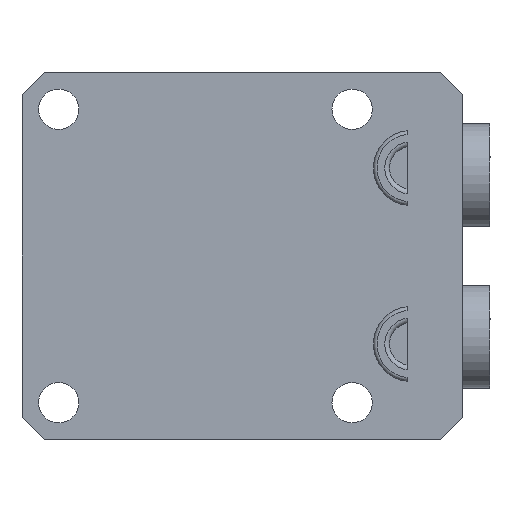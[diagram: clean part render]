
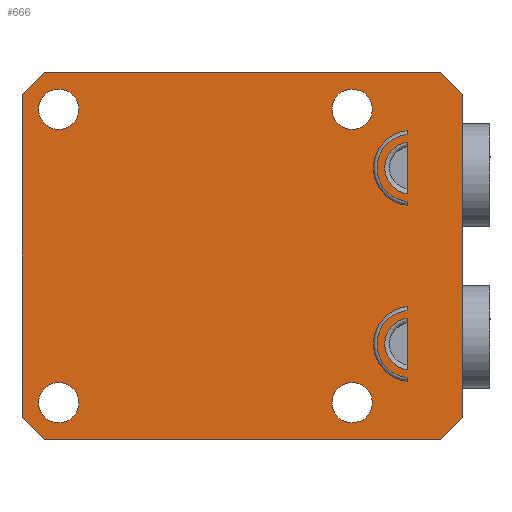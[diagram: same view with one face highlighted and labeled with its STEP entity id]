
A CAD part, front view. The second image highlights one B-rep face of the part: STEP entity #666.
In plain terms, the highlighted planar face has unit normal (0, -1, 0).
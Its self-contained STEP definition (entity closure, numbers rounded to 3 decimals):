
#180=FACE_BOUND('',#962,.T.);
#181=FACE_BOUND('',#963,.T.);
#182=FACE_BOUND('',#964,.T.);
#183=FACE_BOUND('',#965,.T.);
#184=FACE_BOUND('',#966,.T.);
#185=FACE_BOUND('',#967,.T.);
#186=FACE_BOUND('',#968,.T.);
#187=FACE_BOUND('',#969,.T.);
#188=FACE_BOUND('',#970,.T.);
#220=PLANE('',#2629);
#337=LINE('',#3888,#497);
#353=LINE('',#4008,#513);
#354=LINE('',#4009,#514);
#355=LINE('',#4010,#515);
#356=LINE('',#4011,#516);
#357=LINE('',#4012,#517);
#358=LINE('',#4014,#518);
#359=LINE('',#4016,#519);
#360=LINE('',#4018,#520);
#361=LINE('',#4020,#521);
#362=LINE('',#4022,#522);
#363=LINE('',#4024,#523);
#364=LINE('',#4029,#524);
#365=LINE('',#4030,#525);
#497=VECTOR('',#2926,1.);
#513=VECTOR('',#2982,1.);
#514=VECTOR('',#2983,1.);
#515=VECTOR('',#2984,1.);
#516=VECTOR('',#2985,1.);
#517=VECTOR('',#2986,1.);
#518=VECTOR('',#2987,1.);
#519=VECTOR('',#2988,1.);
#520=VECTOR('',#2989,1.);
#521=VECTOR('',#2990,1.);
#522=VECTOR('',#2991,1.);
#523=VECTOR('',#2992,1.);
#524=VECTOR('',#3001,1.);
#525=VECTOR('',#3002,1.);
#666=ADVANCED_FACE('',(#180,#181,#182,#183,#184,#185,#186,#187,#188),#220,
 .F.);
#962=EDGE_LOOP('',(#1265,#1266,#1267,#1268));
#963=EDGE_LOOP('',(#1269,#1270,#1271,#1272));
#964=EDGE_LOOP('',(#1273,#1274,#1275,#1276,#1277,#1278,#1279,#1280));
#965=EDGE_LOOP('',(#1281,#1282));
#966=EDGE_LOOP('',(#1283,#1284));
#967=EDGE_LOOP('',(#1285,#1286));
#968=EDGE_LOOP('',(#1287,#1288));
#969=EDGE_LOOP('',(#1289,#1290));
#970=EDGE_LOOP('',(#1291,#1292));
#1265=ORIENTED_EDGE('',*,*,#2121,.F.);
#1266=ORIENTED_EDGE('',*,*,#2179,.T.);
#1267=ORIENTED_EDGE('',*,*,#2130,.F.);
#1268=ORIENTED_EDGE('',*,*,#2180,.T.);
#1269=ORIENTED_EDGE('',*,*,#2181,.T.);
#1270=ORIENTED_EDGE('',*,*,#2114,.T.);
#1271=ORIENTED_EDGE('',*,*,#2182,.T.);
#1272=ORIENTED_EDGE('',*,*,#2101,.T.);
#1273=ORIENTED_EDGE('',*,*,#2141,.F.);
#1274=ORIENTED_EDGE('',*,*,#2183,.T.);
#1275=ORIENTED_EDGE('',*,*,#2184,.F.);
#1276=ORIENTED_EDGE('',*,*,#2185,.T.);
#1277=ORIENTED_EDGE('',*,*,#2186,.F.);
#1278=ORIENTED_EDGE('',*,*,#2187,.T.);
#1279=ORIENTED_EDGE('',*,*,#2188,.F.);
#1280=ORIENTED_EDGE('',*,*,#2189,.T.);
#1281=ORIENTED_EDGE('',*,*,#2151,.F.);
#1282=ORIENTED_EDGE('',*,*,#2190,.F.);
#1283=ORIENTED_EDGE('',*,*,#2147,.F.);
#1284=ORIENTED_EDGE('',*,*,#2191,.F.);
#1285=ORIENTED_EDGE('',*,*,#2159,.F.);
#1286=ORIENTED_EDGE('',*,*,#2192,.F.);
#1287=ORIENTED_EDGE('',*,*,#2163,.F.);
#1288=ORIENTED_EDGE('',*,*,#2193,.F.);
#1289=ORIENTED_EDGE('',*,*,#2194,.T.);
#1290=ORIENTED_EDGE('',*,*,#2127,.T.);
#1291=ORIENTED_EDGE('',*,*,#2105,.F.);
#1292=ORIENTED_EDGE('',*,*,#2195,.T.);
#1879=VERTEX_POINT('',#3581);
#1880=VERTEX_POINT('',#3582);
#1883=VERTEX_POINT('',#3623);
#1884=VERTEX_POINT('',#3624);
#1891=VERTEX_POINT('',#3707);
#1892=VERTEX_POINT('',#3709);
#1897=VERTEX_POINT('',#3722);
#1899=VERTEX_POINT('',#3725);
#1903=VERTEX_POINT('',#3770);
#1904=VERTEX_POINT('',#3771);
#1905=VERTEX_POINT('',#3809);
#1906=VERTEX_POINT('',#3810);
#1911=VERTEX_POINT('',#3887);
#1912=VERTEX_POINT('',#3889);
#1917=VERTEX_POINT('',#3902);
#1918=VERTEX_POINT('',#3903);
#1921=VERTEX_POINT('',#3911);
#1922=VERTEX_POINT('',#3912);
#1929=VERTEX_POINT('',#3934);
#1930=VERTEX_POINT('',#3935);
#1933=VERTEX_POINT('',#3943);
#1934=VERTEX_POINT('',#3944);
#1949=VERTEX_POINT('',#4013);
#1950=VERTEX_POINT('',#4015);
#1951=VERTEX_POINT('',#4017);
#1952=VERTEX_POINT('',#4019);
#1953=VERTEX_POINT('',#4021);
#1954=VERTEX_POINT('',#4023);
#2101=EDGE_CURVE('',#1879,#1880,#2451,.T.);
#2105=EDGE_CURVE('',#1883,#1884,#2453,.T.);
#2114=EDGE_CURVE('',#1892,#1891,#2457,.T.);
#2121=EDGE_CURVE('',#1897,#1899,#2460,.T.);
#2127=EDGE_CURVE('',#1903,#1904,#2463,.T.);
#2130=EDGE_CURVE('',#1905,#1906,#2464,.T.);
#2141=EDGE_CURVE('',#1911,#1912,#337,.T.);
#2147=EDGE_CURVE('',#1917,#1918,#2469,.T.);
#2151=EDGE_CURVE('',#1921,#1922,#2471,.T.);
#2159=EDGE_CURVE('',#1929,#1930,#2474,.T.);
#2163=EDGE_CURVE('',#1933,#1934,#2476,.T.);
#2179=EDGE_CURVE('',#1897,#1906,#353,.T.);
#2180=EDGE_CURVE('',#1905,#1899,#354,.T.);
#2181=EDGE_CURVE('',#1880,#1892,#355,.T.);
#2182=EDGE_CURVE('',#1891,#1879,#356,.T.);
#2183=EDGE_CURVE('',#1911,#1949,#357,.T.);
#2184=EDGE_CURVE('',#1950,#1949,#358,.T.);
#2185=EDGE_CURVE('',#1950,#1951,#359,.T.);
#2186=EDGE_CURVE('',#1952,#1951,#360,.T.);
#2187=EDGE_CURVE('',#1952,#1953,#361,.T.);
#2188=EDGE_CURVE('',#1954,#1953,#362,.T.);
#2189=EDGE_CURVE('',#1954,#1912,#363,.T.);
#2190=EDGE_CURVE('',#1922,#1921,#2479,.T.);
#2191=EDGE_CURVE('',#1918,#1917,#2480,.T.);
#2192=EDGE_CURVE('',#1930,#1929,#2481,.T.);
#2193=EDGE_CURVE('',#1934,#1933,#2482,.T.);
#2194=EDGE_CURVE('',#1904,#1903,#364,.T.);
#2195=EDGE_CURVE('',#1883,#1884,#365,.T.);
#2451=CIRCLE('',#2577,4.6);
#2453=CIRCLE('',#2580,3.55);
#2457=CIRCLE('',#2586,5.1);
#2460=CIRCLE('',#2591,5.1);
#2463=CIRCLE('',#2596,3.55);
#2464=CIRCLE('',#2598,4.6);
#2469=CIRCLE('',#2609,2.75);
#2471=CIRCLE('',#2612,2.75);
#2474=CIRCLE('',#2617,2.75);
#2476=CIRCLE('',#2620,2.75);
#2479=CIRCLE('',#2625,2.75);
#2480=CIRCLE('',#2626,2.75);
#2481=CIRCLE('',#2627,2.75);
#2482=CIRCLE('',#2628,2.75);
#2577=AXIS2_PLACEMENT_3D('',#3580,#2859,#2860);
#2580=AXIS2_PLACEMENT_3D('',#3622,#2865,#2866);
#2586=AXIS2_PLACEMENT_3D('',#3708,#2878,#2879);
#2591=AXIS2_PLACEMENT_3D('',#3724,#2892,#2893);
#2596=AXIS2_PLACEMENT_3D('',#3769,#2903,#2904);
#2598=AXIS2_PLACEMENT_3D('',#3808,#2907,#2908);
#2609=AXIS2_PLACEMENT_3D('',#3901,#2938,#2939);
#2612=AXIS2_PLACEMENT_3D('',#3910,#2946,#2947);
#2617=AXIS2_PLACEMENT_3D('',#3933,#2960,#2961);
#2620=AXIS2_PLACEMENT_3D('',#3942,#2968,#2969);
#2625=AXIS2_PLACEMENT_3D('',#4025,#2993,#2994);
#2626=AXIS2_PLACEMENT_3D('',#4026,#2995,#2996);
#2627=AXIS2_PLACEMENT_3D('',#4027,#2997,#2998);
#2628=AXIS2_PLACEMENT_3D('',#4028,#2999,#3000);
#2629=AXIS2_PLACEMENT_3D('',#4031,#3003,#3004);
#2859=DIRECTION('',(0.,-1.,0.));
#2860=DIRECTION('',(0.,0.,-1.));
#2865=DIRECTION('',(0.,-1.,0.));
#2866=DIRECTION('',(0.,0.,-1.));
#2878=DIRECTION('',(0.,1.,0.));
#2879=DIRECTION('',(0.,0.,1.));
#2892=DIRECTION('',(0.,-1.,0.));
#2893=DIRECTION('',(0.,0.,-1.));
#2903=DIRECTION('',(0.,1.,0.));
#2904=DIRECTION('',(0.,0.,1.));
#2907=DIRECTION('',(0.,1.,0.));
#2908=DIRECTION('',(0.,0.,1.));
#2926=DIRECTION('',(0.,0.,-1.));
#2938=DIRECTION('',(0.,-1.,0.));
#2939=DIRECTION('',(0.,0.,1.));
#2946=DIRECTION('',(0.,-1.,0.));
#2947=DIRECTION('',(0.,0.,1.));
#2960=DIRECTION('',(0.,-1.,0.));
#2961=DIRECTION('',(0.,0.,1.));
#2968=DIRECTION('',(0.,-1.,0.));
#2969=DIRECTION('',(0.,0.,1.));
#2982=DIRECTION('',(0.,0.,-1.));
#2983=DIRECTION('',(0.,0.,-1.));
#2984=DIRECTION('',(0.,0.,-1.));
#2985=DIRECTION('',(0.,0.,-1.));
#2986=DIRECTION('',(-0.707,0.,0.707));
#2987=DIRECTION('',(1.,0.,0.));
#2988=DIRECTION('',(-0.707,0.,-0.707));
#2989=DIRECTION('',(0.,0.,1.));
#2990=DIRECTION('',(0.707,0.,-0.707));
#2991=DIRECTION('',(-1.,0.,0.));
#2992=DIRECTION('',(0.707,0.,0.707));
#2993=DIRECTION('',(0.,-1.,0.));
#2994=DIRECTION('',(0.,0.,1.));
#2995=DIRECTION('',(0.,-1.,0.));
#2996=DIRECTION('',(0.,0.,1.));
#2997=DIRECTION('',(0.,-1.,0.));
#2998=DIRECTION('',(0.,0.,1.));
#2999=DIRECTION('',(0.,-1.,0.));
#3000=DIRECTION('',(0.,0.,1.));
#3001=DIRECTION('',(0.,0.,-1.));
#3002=DIRECTION('',(0.,0.,-1.));
#3003=DIRECTION('',(0.,1.,0.));
#3004=DIRECTION('',(0.,0.,-1.));
#3580=CARTESIAN_POINT('',(28.,0.,12.));
#3581=CARTESIAN_POINT('',(27.5,0.,16.573));
#3582=CARTESIAN_POINT('',(27.5,0.,7.427));
#3622=CARTESIAN_POINT('',(28.,0.,12.));
#3623=CARTESIAN_POINT('',(27.5,0.,15.515));
#3624=CARTESIAN_POINT('',(27.5,0.,8.485));
#3707=CARTESIAN_POINT('',(27.5,0.,17.075));
#3708=CARTESIAN_POINT('',(28.,0.,12.));
#3709=CARTESIAN_POINT('',(27.5,0.,6.925));
#3722=CARTESIAN_POINT('',(27.5,0.,-6.925));
#3724=CARTESIAN_POINT('',(28.,0.,-12.));
#3725=CARTESIAN_POINT('',(27.5,0.,-17.075));
#3769=CARTESIAN_POINT('',(28.,0.,-12.));
#3770=CARTESIAN_POINT('',(27.5,0.,-15.515));
#3771=CARTESIAN_POINT('',(27.5,0.,-8.485));
#3808=CARTESIAN_POINT('',(28.,0.,-12.));
#3809=CARTESIAN_POINT('',(27.5,0.,-16.573));
#3810=CARTESIAN_POINT('',(27.5,0.,-7.427));
#3887=CARTESIAN_POINT('',(35.,0.,22.));
#3888=CARTESIAN_POINT('',(35.,0.,-25.));
#3889=CARTESIAN_POINT('',(35.,0.,-22.));
#3901=CARTESIAN_POINT('',(-20.,0.,-20.));
#3902=CARTESIAN_POINT('',(-20.,0.,-17.25));
#3903=CARTESIAN_POINT('',(-20.,0.,-22.75));
#3910=CARTESIAN_POINT('',(20.,0.,-20.));
#3911=CARTESIAN_POINT('',(20.,0.,-17.25));
#3912=CARTESIAN_POINT('',(20.,0.,-22.75));
#3933=CARTESIAN_POINT('',(20.,0.,20.));
#3934=CARTESIAN_POINT('',(20.,0.,22.75));
#3935=CARTESIAN_POINT('',(20.,0.,17.25));
#3942=CARTESIAN_POINT('',(-20.,0.,20.));
#3943=CARTESIAN_POINT('',(-20.,0.,22.75));
#3944=CARTESIAN_POINT('',(-20.,0.,17.25));
#4008=CARTESIAN_POINT('',(27.5,0.,-25.));
#4009=CARTESIAN_POINT('',(27.5,0.,-25.));
#4010=CARTESIAN_POINT('',(27.5,0.,-25.));
#4011=CARTESIAN_POINT('',(27.5,0.,-25.));
#4012=CARTESIAN_POINT('',(35.,0.,22.));
#4013=CARTESIAN_POINT('',(32.,0.,25.));
#4014=CARTESIAN_POINT('',(-25.,0.,25.));
#4015=CARTESIAN_POINT('',(-22.,0.,25.));
#4016=CARTESIAN_POINT('',(-22.,0.,25.));
#4017=CARTESIAN_POINT('',(-25.,0.,22.));
#4018=CARTESIAN_POINT('',(-25.,0.,-25.));
#4019=CARTESIAN_POINT('',(-25.,0.,-22.));
#4020=CARTESIAN_POINT('',(-25.,0.,-22.));
#4021=CARTESIAN_POINT('',(-22.,0.,-25.));
#4022=CARTESIAN_POINT('',(-25.,0.,-25.));
#4023=CARTESIAN_POINT('',(32.,0.,-25.));
#4024=CARTESIAN_POINT('',(32.,0.,-25.));
#4025=CARTESIAN_POINT('',(20.,0.,-20.));
#4026=CARTESIAN_POINT('',(-20.,0.,-20.));
#4027=CARTESIAN_POINT('',(20.,0.,20.));
#4028=CARTESIAN_POINT('',(-20.,0.,20.));
#4029=CARTESIAN_POINT('',(27.5,0.,-25.));
#4030=CARTESIAN_POINT('',(27.5,0.,-25.));
#4031=CARTESIAN_POINT('',(-25.,0.,25.));
